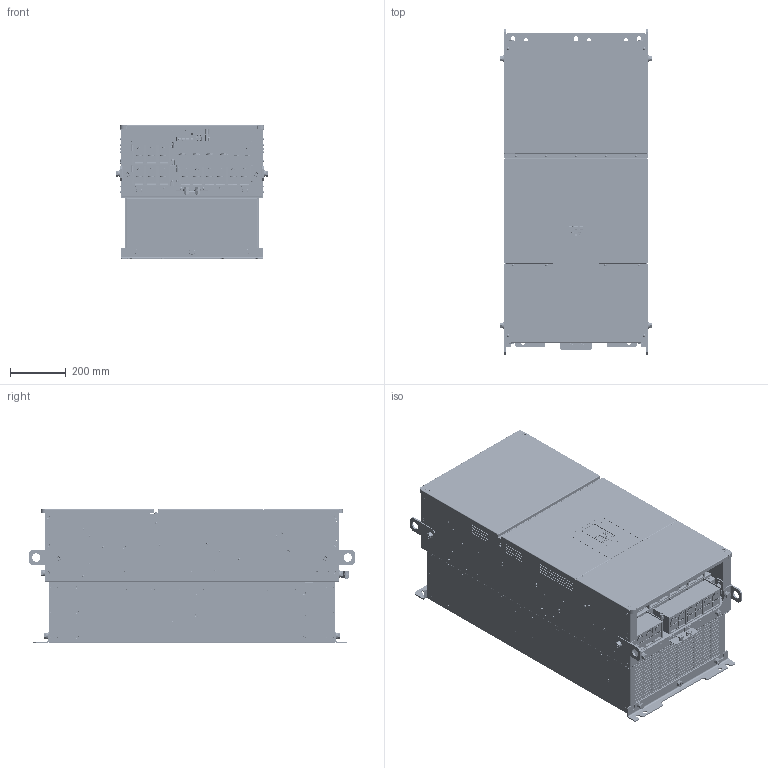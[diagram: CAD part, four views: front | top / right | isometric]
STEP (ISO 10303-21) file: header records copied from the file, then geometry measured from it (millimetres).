
FILE_DESCRIPTION((''),'2;1');
FILE_NAME('A11_CR7_4315_ASM','2021-01-14T',('jam'),('YASKAWA ELECTRIC CORCORATION'),'PRO/ENGINEER BY PARAMETRIC TECHNOLOGY CORPORATION, 2017170','PRO/ENGINEER BY PARAMETRIC TECHNOLOGY CORPORATION, 2017170','');
FILE_SCHEMA(('AUTOMOTIVE_DESIGN { 1 0 10303 214 1 1 1 1 }'));
Products named in the file (38): GA70_4675_BODY_1; GA70_4675_MTG_PLATE_TOP_1; GEM_OPEN_SCREW_M12X30_1; GA70_4675_MTG_PLATE_BOTTOM_1; BREP_WITH_VOIDS_493999; MANIFOLD_SOLID_BREP_494357; MANIFOLD_SOLID_BREP_494715; MANIFOLD_SOLID_BREP_495073; MANIFOLD_SOLID_BREP_495431; MANIFOLD_SOLID_BREP_495789; MANIFOLD_SOLID_BREP_496147; MANIFOLD_SOLID_BREP_496505; MANIFOLD_SOLID_BREP_496863; GA70_4675_FAN_1_ASM; GA70_4675_FP1_1; 400-098-514-01A-0_200214_3_1; SMKDSN1P5_12_4_1; MKDSN1P5_11_4_1; MK3DSN1P5_3-5P08_5_1; ETC750020_STEP_ASM; GA70_ALL_LED_1; GA70_4675_FP_1; GA70_4675_IP20_COVER_1; GA70_ALL_USB_COVER_1; GA70_ALL_CONNECTOR_1; GA70_ALL_LCD_OPERATOR_1; MANIFOLD_SOLID_BREP_665911; MANIFOLD_SOLID_BREP_670497; GA70_4675_TB_COVER1_1_ASM; MANIFOLD_SOLID_BREP_673629; MANIFOLD_SOLID_BREP_682313; GA70_4675_TB_COVER2_1_ASM; MANIFOLD_SOLID_BREP_691685; MANIFOLD_SOLID_BREP_694557; GA70_4675_TB_COVER3_1_ASM; GA70_4675_FP2_1; GA70_4675_SCREW_GND_1; A11_CR7_4315_ASM
Assembly tree (45 placements, depth 3):
  A11_CR7_4315_ASM
    GA70_4675_BODY_1
    GA70_4675_MTG_PLATE_TOP_1
    GEM_OPEN_SCREW_M12X30_1  x6
    GA70_4675_MTG_PLATE_BOTTOM_1
    GA70_4675_FAN_1_ASM
      BREP_WITH_VOIDS_493999
      MANIFOLD_SOLID_BREP_494357
      MANIFOLD_SOLID_BREP_494715
      MANIFOLD_SOLID_BREP_495073
      MANIFOLD_SOLID_BREP_495431
      MANIFOLD_SOLID_BREP_495789
      MANIFOLD_SOLID_BREP_496147
      MANIFOLD_SOLID_BREP_496505
      MANIFOLD_SOLID_BREP_496863
    GA70_4675_FP1_1
    ETC750020_STEP_ASM
      400-098-514-01A-0_200214_3_1
      SMKDSN1P5_12_4_1  x2
      MKDSN1P5_11_4_1
      MK3DSN1P5_3-5P08_5_1
    GA70_ALL_LED_1
    GA70_4675_FP_1
    GA70_4675_IP20_COVER_1
    GA70_ALL_USB_COVER_1
    GA70_ALL_CONNECTOR_1
    GA70_ALL_LCD_OPERATOR_1
    GA70_4675_TB_COVER1_1_ASM  x2
      MANIFOLD_SOLID_BREP_665911
      MANIFOLD_SOLID_BREP_670497
    GA70_4675_TB_COVER2_1_ASM
      MANIFOLD_SOLID_BREP_673629
      MANIFOLD_SOLID_BREP_682313
    GA70_4675_TB_COVER3_1_ASM
      MANIFOLD_SOLID_BREP_691685
      MANIFOLD_SOLID_BREP_694557
    GA70_4675_FP2_1
    GA70_4675_SCREW_GND_1  x2
Bounding box: 543.4 x 1167 x 482.5 mm (x, y, z)
Volume: 203183722.2 mm3; surface area: 6063794 mm2
Topology: 41 solids, 58 shells, 18076 faces, 47080 edges, 30220 vertices
Faces by surface type: plane 10141, cylinder 5643, cone 1408, torus 357, bspline 263, sphere 224, extrusion 40
Entity records: 563334 total; most frequent: CARTESIAN_POINT 120870, DIRECTION 90063, ORIENTED_EDGE 89122, EDGE_CURVE 44561, AXIS2_PLACEMENT_3D 30774, VERTEX_POINT 28708, VECTOR 28515, LINE 28475
